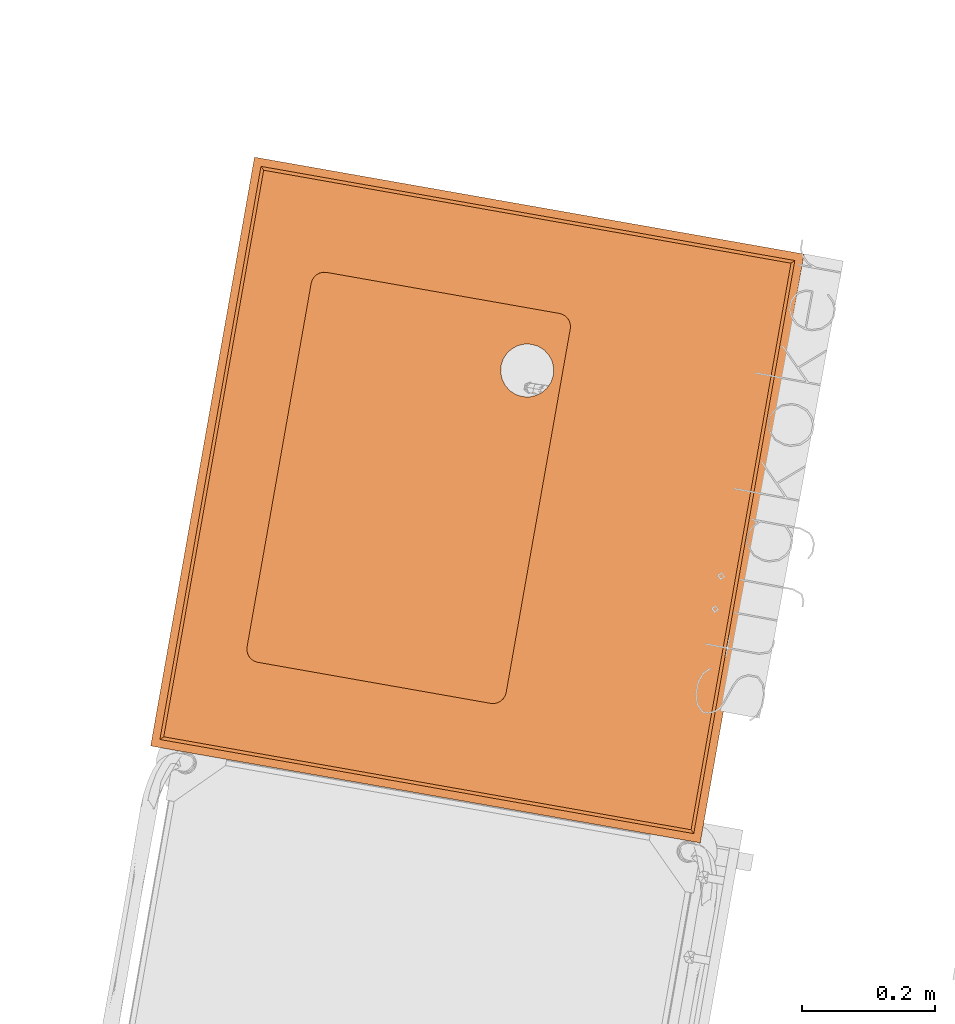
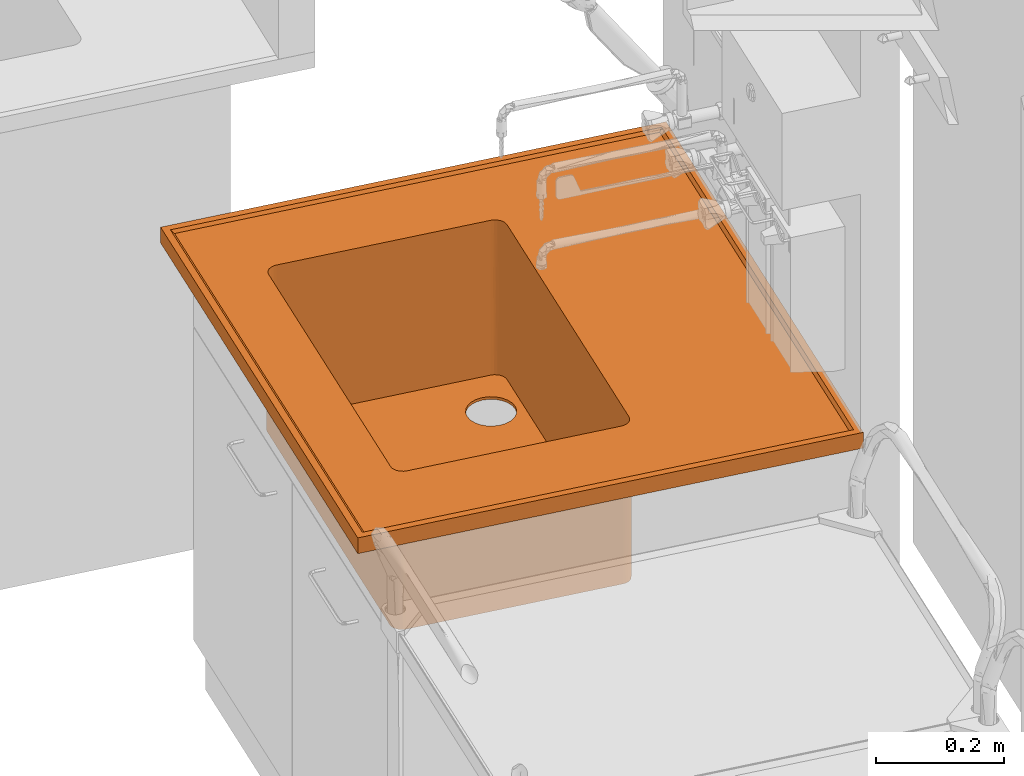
# One storey, part 17 of 32: 1 proxy.
"""IFC2X3 building model written with IfcOpenShell, lengths in metres."""

import ifcopenshell
import ifcopenshell.guid

model = None  # the IFC model being written
_history = None  # IfcOwnerHistory: only IFC2X3 demands one
_inside = {}  # id of a spatial element -> (the spatial element, [elements in it])
_under = {}  # id of a project, library or spatial element -> (it, [spatial elements below it])
_declared = {}  # id of a project -> (the project, [libraries it declares])
_typed = {}  # id of a type object -> (the type object, [elements of that type])
_made_of = {}  # id of a material, layer set ... -> (it, [elements and type objects made of it])


def new_model(schema):
    """Start an empty IFC model of exactly this schema.

    Asked for "IFC4X3", IfcOpenShell would pick the latest addendum, in which some entities
    have other attributes; the version numbers below select the first issue.
    IFC2X3 requires an IfcOwnerHistory on every rooted entity: one is made here for all.
    """
    global model, _history
    if schema == "IFC4X3":
        model = ifcopenshell.file(schema_version=(4, 3, 0, 0))
    else:
        model = ifcopenshell.file(schema=schema)
    _inside.clear()
    _under.clear()
    _declared.clear()
    _typed.clear()
    _made_of.clear()
    _history = None
    if model.schema == "IFC2X3":
        org = make("IfcOrganization", Name="unknown")
        user = make(
            "IfcPersonAndOrganization",
            ThePerson=make("IfcPerson", FamilyName="unknown"),
            TheOrganization=org,
        )
        app = make(
            "IfcApplication",
            ApplicationDeveloper=org,
            Version="unknown",
            ApplicationFullName="unknown",
            ApplicationIdentifier="unknown",
        )
        _history = make(
            "IfcOwnerHistory",
            OwningUser=user,
            OwningApplication=app,
            ChangeAction="ADDED",
            CreationDate=0,
        )
    return model


def make(cls, **values):
    """One entity of the class cls with the attributes given. An attribute that is None is left unset."""
    return model.create_entity(
        cls, **{name: value for name, value in values.items() if value is not None}
    )


def entity(cls, *values):
    """Any entity or typed value of the class cls, its attributes in the order of the schema. None: left unset."""
    e = model.create_entity(cls)
    for i, value in enumerate(values):
        if value is not None:
            e[i] = value
    return e


def rooted(cls, **values):
    """An entity with a GlobalId (a new one), such as an element, a storey or a relation."""
    return make(cls, GlobalId=ifcopenshell.guid.new(), OwnerHistory=_history, **values)


def si_unit(unit_type, name, prefix=None):
    """IfcSIUnit, for example si_unit("LENGTHUNIT", "METRE", prefix="MILLI")."""
    return make("IfcSIUnit", UnitType=unit_type, Prefix=prefix, Name=name)


def converted_unit(unit_type, name, factor, base, dimensions=None, offset=None):
    """IfcConversionBasedUnit, such as the inch: factor (a typed value) times the base unit."""
    return make(
        "IfcConversionBasedUnit"
        if offset is None
        else "IfcConversionBasedUnitWithOffset",
        ConversionOffset=offset,
        Dimensions=None
        if dimensions is None
        else entity("IfcDimensionalExponents", *dimensions),
        UnitType=unit_type,
        Name=name,
        ConversionFactor=make(
            "IfcMeasureWithUnit", ValueComponent=factor, UnitComponent=base
        ),
    )


def derived_unit(unit_type, elements):
    """IfcDerivedUnit: a product of units, each with its exponent."""
    return make(
        "IfcDerivedUnit",
        Elements=[
            make("IfcDerivedUnitElement", Unit=unit, Exponent=power)
            for unit, power in elements
        ],
        UnitType=unit_type,
    )


def assignment(units):
    """IfcUnitAssignment: the units of a project."""
    return None if units is None else make("IfcUnitAssignment", Units=units)


def point(xyz):
    """IfcCartesianPoint."""
    return None if xyz is None else make("IfcCartesianPoint", Coordinates=xyz)


def direction(xyz):
    """IfcDirection."""
    return None if xyz is None else make("IfcDirection", DirectionRatios=xyz)


def frame(location, z_axis=None, x_axis=None):
    """IfcAxis2Placement3D, a coordinate frame: its origin and axes. An axis left out is left unset."""
    return make(
        "IfcAxis2Placement3D",
        Location=point(location),
        Axis=direction(z_axis),
        RefDirection=direction(x_axis),
    )


def origin():
    """The frame at (0, 0, 0) with its axes left unset."""
    return frame((0.0, 0.0, 0.0))


def place(relative_to, where):
    """IfcLocalPlacement: puts the frame where relative to a parent placement (None: the world)."""
    return make(
        "IfcLocalPlacement", PlacementRelTo=relative_to, RelativePlacement=where
    )


def context(
    kind, dimensions, precision=None, world=None, true_north=None, identifier=None
):
    """IfcGeometricRepresentationContext, for example the 3D "Model" context."""
    return make(
        "IfcGeometricRepresentationContext",
        ContextIdentifier=identifier,
        ContextType=kind,
        CoordinateSpaceDimension=dimensions,
        Precision=precision,
        WorldCoordinateSystem=world,
        TrueNorth=true_north,
    )


def subcontext(parent, identifier, kind, view, scale=None):
    """IfcGeometricRepresentationSubContext, for example "Body" below "Model"."""
    return make(
        "IfcGeometricRepresentationSubContext",
        ContextIdentifier=identifier,
        ContextType=kind,
        ParentContext=parent,
        TargetScale=scale,
        TargetView=view,
    )


def project(units=None, contexts=None):
    """IfcProject with its units and contexts."""
    return rooted(
        "IfcProject",
        Name="project",
        RepresentationContexts=contexts,
        UnitsInContext=assignment(units),
    )


def spatial(cls, under=None, at=None, **own):
    """A site, building, storey or space (cls), placed at a placement, below another one or the project."""
    s = rooted(cls, ObjectPlacement=at, **own)
    if under is not None:
        _under.setdefault(under.id(), (under, []))[1].append(s)
    return s


def faces_of(points, faces, orient=None, outer=None):
    """IfcFace entities. A face is a list of loops; a loop is a list of indices into points, from 0.

    orient and outer hold one flag for each loop. By default every Orientation is true, the
    first loop of a face is its IfcFaceOuterBound and the others are IfcFaceBound.
    """
    made = []
    for i, loops in enumerate(faces):
        bounds = []
        for j, loop in enumerate(loops):
            is_outer = j == 0 if outer is None else outer[i][j]
            bounds.append(
                make(
                    "IfcFaceOuterBound" if is_outer else "IfcFaceBound",
                    Bound=make("IfcPolyLoop", Polygon=[points[k] for k in loop]),
                    Orientation=True if orient is None else orient[i][j],
                )
            )
        made.append(make("IfcFace", Bounds=bounds))
    return made


def faceted_brep(points, faces, orient=None, outer=None, voids=None):
    """IfcFacetedBrep: a solid bounded by flat faces; with voids (closed shells), ...WithVoids."""
    shared = [point(p) for p in points]
    hull = make("IfcClosedShell", CfsFaces=faces_of(shared, faces, orient, outer))
    if voids is None:
        return make("IfcFacetedBrep", Outer=hull)
    return make(
        "IfcFacetedBrepWithVoids",
        Outer=hull,
        Voids=[
            make(cls, CfsFaces=faces_of(shared, fs, o, b)) for cls, fs, o, b in voids
        ],
    )


def shape(context_of_items, identifier, shape_type, items):
    """IfcShapeRepresentation: the items that make up one representation, for example the "Body"."""
    return make(
        "IfcShapeRepresentation",
        ContextOfItems=context_of_items,
        RepresentationIdentifier=identifier,
        RepresentationType=shape_type,
        Items=items,
    )


def source(mapping_origin, context_of_items, identifier, shape_type, items):
    """IfcRepresentationMap: a shape defined once, which mapped items show again and again."""
    return make(
        "IfcRepresentationMap",
        MappingOrigin=mapping_origin,
        MappedRepresentation=shape(context_of_items, identifier, shape_type, items),
    )


def transform(
    local_origin,
    x_axis=None,
    y_axis=None,
    z_axis=None,
    scale=None,
    scale2=None,
    scale3=None,
    uniform=True,
):
    """IfcCartesianTransformationOperator3D, or its non-uniform kind. x_axis, y_axis, z_axis: its Axis1, 2, 3."""
    if uniform:
        return make(
            "IfcCartesianTransformationOperator3D",
            Axis1=direction(x_axis),
            Axis2=direction(y_axis),
            LocalOrigin=point(local_origin),
            Scale=scale,
            Axis3=direction(z_axis),
        )
    return make(
        "IfcCartesianTransformationOperator3DnonUniform",
        Axis1=direction(x_axis),
        Axis2=direction(y_axis),
        LocalOrigin=point(local_origin),
        Scale=scale,
        Axis3=direction(z_axis),
        Scale2=scale2,
        Scale3=scale3,
    )


def mapped(mapping_source, mapping_target):
    """IfcMappedItem: shows the shape of a source again, moved by a transform."""
    return make(
        "IfcMappedItem", MappingSource=mapping_source, MappingTarget=mapping_target
    )


def material(Name=None, Category=None):
    """IfcMaterial."""
    return make("IfcMaterial", Name=Name, Category=Category)


def made_of(thing, what):
    """Note that an element or type object is made of a material, layer set ...; save() writes the relation."""
    if what is not None:
        _made_of.setdefault(what.id(), (what, []))[1].append(thing)
    return thing


def type_object(cls, material=None, **own):
    """A type object (cls), such as IfcWallType, which elements share."""
    return made_of(rooted(cls, **own), material)


def type_shapes(of_type, sources):
    """Give a type object the sources (RepresentationMaps) that its elements show as mapped items."""
    of_type.RepresentationMaps = sources


def element(
    cls,
    number,
    at=None,
    inside=None,
    cuts=None,
    type_object=None,
    material=None,
    context=None,
    identifier="Body",
    shape_type=None,
    held_by="IfcProductDefinitionShape",
    body=None,
    shapes=None,
    **own,
):
    """One element of the class cls, such as IfcWall. Its Tag is "e" and its number.

    at: its placement. inside: the storey or other place that contains it. cuts: it is an
    opening in that element (IfcRelVoidsElement). A single representation is given by context,
    identifier, shape_type and body (its items); several are given by shapes. held_by: the class
    of the entity that holds the representations. save() writes the other relations.
    """
    e = rooted(cls, Tag="e%d" % number, ObjectPlacement=at, **own)
    if body is not None:
        shapes = [shape(context, identifier, shape_type, body)]
    if shapes is not None:
        e.Representation = make(held_by, Representations=shapes)
    if inside is not None:
        _inside.setdefault(inside.id(), (inside, []))[1].append(e)
    if cuts is not None:
        rooted(
            "IfcRelVoidsElement", RelatingBuildingElement=cuts, RelatedOpeningElement=e
        )
    if type_object is not None:
        _typed.setdefault(type_object.id(), (type_object, []))[1].append(e)
    return made_of(e, material)


def aggregate(whole, parts):
    """IfcRelAggregates: a whole, such as a stair, and the parts it consists of."""
    return rooted("IfcRelAggregates", RelatingObject=whole, RelatedObjects=parts)


def save(model, path):
    """Write the relations noted so far, then the file.

    IfcRelAggregates (storeys below a building ...), IfcRelContainedInSpatialStructure (elements
    in a storey), IfcRelDefinesByType, IfcRelAssociatesMaterial and IfcRelDeclares: one each for
    every whole, place, type object, material and project.
    """
    for whole, parts in _under.values():
        aggregate(whole, parts)
    for where, things in _inside.values():
        rooted(
            "IfcRelContainedInSpatialStructure",
            RelatedElements=things,
            RelatingStructure=where,
        )
    for kind, things in _typed.values():
        rooted("IfcRelDefinesByType", RelatedObjects=things, RelatingType=kind)
    for what, things in _made_of.values():
        rooted("IfcRelAssociatesMaterial", RelatedObjects=things, RelatingMaterial=what)
    for by, libraries in _declared.values():
        rooted("IfcRelDeclares", RelatingContext=by, RelatedDefinitions=libraries)
    model.write(path)


model = new_model("IFC2X3")

# Units and contexts
model_context = context("Model", 3, precision=1e-05, world=origin(), true_north=direction((6.12303176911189e-17, 1.0)))
body_context = subcontext(model_context, "Body", "Model", "MODEL_VIEW")
ifc_project = project(units=[si_unit("LENGTHUNIT", "METRE"), si_unit("AREAUNIT", "SQUARE_METRE"), si_unit("VOLUMEUNIT", "CUBIC_METRE"), converted_unit("PLANEANGLEUNIT", "DEGREE", entity("IfcRatioMeasure", 0.0174532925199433), si_unit("PLANEANGLEUNIT", "RADIAN"), dimensions=[0, 0, 0, 0, 0, 0, 0]), si_unit("MASSUNIT", "GRAM", prefix="KILO"), derived_unit("MASSDENSITYUNIT", [(si_unit("MASSUNIT", "GRAM", prefix="KILO"), 1), (si_unit("LENGTHUNIT", "METRE"), -3)]), derived_unit("MOMENTOFINERTIAUNIT", [(si_unit("LENGTHUNIT", "METRE"), 4)]), si_unit("TIMEUNIT", "SECOND"), si_unit("FREQUENCYUNIT", "HERTZ"), si_unit("THERMODYNAMICTEMPERATUREUNIT", "DEGREE_CELSIUS"), derived_unit("THERMALTRANSMITTANCEUNIT", [(si_unit("MASSUNIT", "GRAM", prefix="KILO"), 1), (si_unit("THERMODYNAMICTEMPERATUREUNIT", "KELVIN"), -1), (si_unit("TIMEUNIT", "SECOND"), -3)]), derived_unit("VOLUMETRICFLOWRATEUNIT", [(si_unit("LENGTHUNIT", "METRE"), 3), (si_unit("TIMEUNIT", "SECOND"), -1)]), si_unit("ELECTRICCURRENTUNIT", "AMPERE"), si_unit("ELECTRICVOLTAGEUNIT", "VOLT"), si_unit("POWERUNIT", "WATT"), si_unit("FORCEUNIT", "NEWTON", prefix="KILO"), si_unit("ILLUMINANCEUNIT", "LUX"), si_unit("LUMINOUSFLUXUNIT", "LUMEN"), si_unit("LUMINOUSINTENSITYUNIT", "CANDELA"), derived_unit("USERDEFINED", [(si_unit("MASSUNIT", "GRAM", prefix="KILO"), -1), (si_unit("LENGTHUNIT", "METRE"), -2), (si_unit("TIMEUNIT", "SECOND"), 3), (si_unit("LUMINOUSFLUXUNIT", "LUMEN"), 1)]), derived_unit("LINEARVELOCITYUNIT", [(si_unit("LENGTHUNIT", "METRE"), 1), (si_unit("TIMEUNIT", "SECOND"), -1)]), si_unit("PRESSUREUNIT", "PASCAL"), derived_unit("USERDEFINED", [(si_unit("LENGTHUNIT", "METRE"), -2), (si_unit("MASSUNIT", "GRAM", prefix="KILO"), 1), (si_unit("TIMEUNIT", "SECOND"), -2)]), derived_unit("LINEARFORCEUNIT", [(si_unit("MASSUNIT", "GRAM", prefix="KILO"), 1), (si_unit("LENGTHUNIT", "METRE"), 1), (si_unit("TIMEUNIT", "SECOND"), -2), (si_unit("LENGTHUNIT", "METRE"), -1)]), derived_unit("PLANARFORCEUNIT", [(si_unit("MASSUNIT", "GRAM", prefix="KILO"), 1), (si_unit("LENGTHUNIT", "METRE"), 1), (si_unit("TIMEUNIT", "SECOND"), -2), (si_unit("LENGTHUNIT", "METRE"), -2)])], contexts=[model_context])

# Site, building, storey
site_placement = place(None, origin())
site = spatial("IfcSite", under=ifc_project, at=site_placement, Name="Default", CompositionType="ELEMENT")
building_placement = place(site_placement, origin())
building = spatial("IfcBuilding", under=site, at=building_placement, CompositionType="ELEMENT")
storey_placement = place(building_placement, origin())
storey = spatial("IfcBuildingStorey", under=building, at=storey_placement, Name="00 EG", CompositionType="ELEMENT", Elevation=0.0)

# Proxy
ifc_material = material(Name="Steinzeug")
building_element_proxy_type = type_object("IfcBuildingElementProxyType", Name="dh_Tischplatte Steinzeug Becken:dh_Tischplatte Steinzeug Becken", PredefinedType="NOTDEFINED", material=ifc_material)
shared_shape = source(origin(), body_context, "Body", "Brep", [
    faceted_brep([(0.150681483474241, 0.50017638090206, 0.0), (0.155857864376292, 0.50914213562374, 0.0), (0.160000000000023, 0.512320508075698, 0.0), (0.152679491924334, 0.505000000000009, 0.0), (0.150000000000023, 0.495000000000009, 0.0), (0.164823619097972, 0.514318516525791, 0.0), (0.170000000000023, 0.515000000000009, 0.0), (0.206362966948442, 0.470352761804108, 0.0), (0.210358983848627, 0.480000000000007, 0.0), (0.216715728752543, 0.488284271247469, 0.0), (0.225000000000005, 0.494641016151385, 0.0), (0.234647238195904, 0.49863703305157, 0.0), (0.245000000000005, 0.500000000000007, 0.0), (0.255352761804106, 0.49863703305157, 0.0), (0.730000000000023, 0.515000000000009, 0.0), (0.265000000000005, 0.494641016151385, 0.0), (0.273284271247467, 0.488284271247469, 0.0), (0.279641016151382, 0.480000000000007, 0.0), (0.283637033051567, 0.470352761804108, 0.0), (0.285000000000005, 0.460000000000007, 0.0), (0.283637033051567, 0.449647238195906, 0.0), (0.279641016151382, 0.440000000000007, 0.0), (0.730000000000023, 0.11500000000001, 0.0), (0.750000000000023, 0.13500000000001, 0.0), (0.750000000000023, 0.495000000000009, 0.0), (0.735176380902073, 0.514318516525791, 0.0), (0.740000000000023, 0.512320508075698, 0.0), (0.749318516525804, 0.50017638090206, 0.0), (0.744142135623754, 0.50914213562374, 0.0), (0.747320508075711, 0.505000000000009, 0.0), (0.735176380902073, 0.115681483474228, 0.0), (0.740000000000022, 0.117679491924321, 0.0), (0.749318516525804, 0.129823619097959, 0.0), (0.744142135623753, 0.120857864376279, 0.0), (0.747320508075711, 0.125000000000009, 0.0), (0.273284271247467, 0.431715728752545, 0.0), (0.170000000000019, 0.115000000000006, 0.0), (0.265000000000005, 0.42535898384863, 0.0), (0.255352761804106, 0.421362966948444, 0.0), (0.150000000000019, 0.135000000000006, 0.0), (0.164823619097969, 0.115681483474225, 0.0), (0.160000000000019, 0.117679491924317, 0.0), (0.150681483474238, 0.129823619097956, 0.0), (0.155857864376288, 0.120857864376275, 0.0), (0.152679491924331, 0.125000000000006, 0.0), (0.210358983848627, 0.440000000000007, 0.0), (0.216715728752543, 0.431715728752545, 0.0), (0.225000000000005, 0.42535898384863, 0.0), (0.234647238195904, 0.421362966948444, 0.0), (0.245000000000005, 0.420000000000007, 0.0), (0.205000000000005, 0.460000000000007, 0.0), (0.206362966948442, 0.449647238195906, 0.0), (0.7453205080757, 0.503000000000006, 0.3), (0.747320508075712, 0.505000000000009, 0.3), (0.742142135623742, 0.507142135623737, 0.3), (0.749318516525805, 0.50017638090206, 0.3), (0.747318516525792, 0.498176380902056, 0.3), (0.750000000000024, 0.495000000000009, 0.3), (0.748000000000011, 0.493000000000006, 0.3), (0.748000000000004, 0.137000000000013, 0.3), (0.750000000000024, 0.13500000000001, 0.3), (0.747318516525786, 0.131823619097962, 0.3), (0.749318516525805, 0.129823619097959, 0.3), (0.745320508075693, 0.127000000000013, 0.3), (0.747320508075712, 0.125000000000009, 0.3), (0.742142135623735, 0.122857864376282, 0.3), (0.744142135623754, 0.120857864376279, 0.3), (0.740000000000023, 0.117679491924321, 0.3), (0.738000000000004, 0.119679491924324, 0.3), (0.735176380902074, 0.115681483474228, 0.3), (0.733176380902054, 0.117681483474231, 0.3), (0.730000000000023, 0.11500000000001, 0.3), (0.728000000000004, 0.117000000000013, 0.3), (0.172000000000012, 0.117000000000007, 0.300000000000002), (0.17000000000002, 0.115000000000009, 0.300000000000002), (0.166823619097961, 0.117681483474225, 0.300000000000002), (0.16482361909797, 0.115681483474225, 0.300000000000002), (0.162000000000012, 0.119679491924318, 0.300000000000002), (0.16000000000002, 0.117679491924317, 0.300000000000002), (0.157857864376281, 0.122857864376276, 0.300000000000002), (0.155857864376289, 0.120857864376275, 0.300000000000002), (0.152679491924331, 0.125000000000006, 0.300000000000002), (0.154679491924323, 0.127000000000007, 0.300000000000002), (0.150681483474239, 0.129823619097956, 0.300000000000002), (0.15268148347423, 0.131823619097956, 0.300000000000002), (0.15000000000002, 0.135000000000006, 0.300000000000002), (0.152000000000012, 0.137000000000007, 0.300000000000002), (0.150000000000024, 0.495000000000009, 0.300000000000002), (0.152000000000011, 0.493000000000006, 0.300000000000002), (0.15268148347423, 0.498176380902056, 0.300000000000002), (0.150681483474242, 0.50017638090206, 0.300000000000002), (0.154679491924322, 0.503000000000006, 0.300000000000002), (0.152679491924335, 0.505000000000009, 0.300000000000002), (0.15785786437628, 0.507142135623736, 0.300000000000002), (0.155857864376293, 0.50914213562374, 0.300000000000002), (0.160000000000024, 0.512320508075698, 0.300000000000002), (0.162000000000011, 0.510320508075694, 0.300000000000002), (0.164823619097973, 0.514318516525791, 0.300000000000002), (0.16682361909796, 0.512318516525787, 0.300000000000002), (0.170000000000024, 0.515000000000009, 0.300000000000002), (0.172000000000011, 0.513000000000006, 0.300000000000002), (0.730000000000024, 0.515000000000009, 0.3), (0.728000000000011, 0.513000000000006, 0.3), (0.733176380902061, 0.512318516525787, 0.3), (0.735176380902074, 0.514318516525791, 0.3), (0.738000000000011, 0.510320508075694, 0.3), (0.740000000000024, 0.512320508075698, 0.3), (0.744142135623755, 0.50914213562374, 0.3), (0.730000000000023, 0.515000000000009, 0.15000042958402), (0.170000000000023, 0.515000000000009, 0.150000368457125), (0.150000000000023, 0.49500000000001, 0.150000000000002), (0.15000000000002, 0.135000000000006, 0.150000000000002), (0.17000000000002, 0.115000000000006, 0.150000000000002), (0.730000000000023, 0.11500000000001, 0.15), (0.750000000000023, 0.135000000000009, 0.15), (0.750000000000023, 0.495000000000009, 0.15), (0.16200000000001, 0.510320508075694, 0.00500000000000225), (0.157857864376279, 0.507142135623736, 0.00500000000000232), (0.152681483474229, 0.498176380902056, 0.00500000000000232), (0.15200000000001, 0.493000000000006, 0.00500000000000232), (0.16682361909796, 0.512318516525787, 0.00500000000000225), (0.154679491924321, 0.503000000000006, 0.00500000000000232), (0.17200000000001, 0.513000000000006, 0.00500000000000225), (0.206362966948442, 0.470352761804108, 0.00500000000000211), (0.205000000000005, 0.460000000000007, 0.00500000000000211), (0.206362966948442, 0.449647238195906, 0.00500000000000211), (0.210358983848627, 0.440000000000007, 0.00500000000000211), (0.152000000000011, 0.137000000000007, 0.00500000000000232), (0.216715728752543, 0.431715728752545, 0.00500000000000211), (0.225000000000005, 0.42535898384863, 0.00500000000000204), (0.234647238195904, 0.421362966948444, 0.00500000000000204), (0.245000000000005, 0.420000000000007, 0.00500000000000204), (0.255352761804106, 0.421362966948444, 0.00500000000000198), (0.172000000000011, 0.117000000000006, 0.00500000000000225), (0.16682361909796, 0.117681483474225, 0.00500000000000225), (0.162000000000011, 0.119679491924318, 0.00500000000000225), (0.152681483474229, 0.131823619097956, 0.00500000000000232), (0.15785786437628, 0.122857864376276, 0.00500000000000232), (0.154679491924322, 0.127000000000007, 0.00500000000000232), (0.265000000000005, 0.42535898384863, 0.00500000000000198), (0.273284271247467, 0.431715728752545, 0.00500000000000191), (0.728000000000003, 0.117000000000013, 0.00500000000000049), (0.279641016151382, 0.440000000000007, 0.00500000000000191), (0.72800000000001, 0.513000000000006, 0.00500000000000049), (0.74800000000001, 0.137000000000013, 0.00500000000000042), (0.733176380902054, 0.117681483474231, 0.00500000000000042), (0.738000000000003, 0.119679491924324, 0.00500000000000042), (0.747318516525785, 0.131823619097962, 0.00500000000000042), (0.742142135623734, 0.122857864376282, 0.00500000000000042), (0.745320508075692, 0.127000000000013, 0.00500000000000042), (0.74800000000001, 0.493000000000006, 0.00500000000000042), (0.733176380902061, 0.512318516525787, 0.00500000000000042), (0.73800000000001, 0.510320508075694, 0.00500000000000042), (0.747318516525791, 0.498176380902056, 0.00500000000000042), (0.742142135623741, 0.507142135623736, 0.00500000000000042), (0.745320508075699, 0.503000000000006, 0.00500000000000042), (0.255352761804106, 0.49863703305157, 0.00500000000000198), (0.265000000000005, 0.494641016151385, 0.00500000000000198), (0.273284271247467, 0.488284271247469, 0.00500000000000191), (0.279641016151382, 0.480000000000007, 0.00500000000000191), (0.283637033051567, 0.470352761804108, 0.00500000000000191), (0.285000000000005, 0.460000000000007, 0.00500000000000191), (0.283637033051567, 0.449647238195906, 0.00500000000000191), (0.210358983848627, 0.480000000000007, 0.00500000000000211), (0.216715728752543, 0.488284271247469, 0.00500000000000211), (0.225000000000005, 0.494641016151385, 0.00500000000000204), (0.234647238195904, 0.49863703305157, 0.00500000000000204), (0.245000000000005, 0.500000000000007, 0.00500000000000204), (0.172000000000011, 0.513000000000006, 0.152499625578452), (0.728000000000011, 0.513000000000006, 0.1525), (0.152000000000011, 0.137000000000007, 0.152500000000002), (0.15200000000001, 0.493000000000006, 0.152500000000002), (0.728000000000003, 0.117000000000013, 0.1525), (0.172000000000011, 0.117000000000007, 0.152500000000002), (0.74800000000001, 0.493000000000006, 0.1525), (0.748000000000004, 0.137000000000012, 0.1525), (0.164346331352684, 0.511477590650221, 0.152499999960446), (0.153522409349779, 0.500653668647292, 0.152499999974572), (0.152384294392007, 0.496901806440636, 0.18766218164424), (0.168098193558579, 0.51261570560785, 0.117337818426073), (0.159824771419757, 0.50886706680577, 0.136631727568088), (0.156132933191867, 0.505175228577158, 0.168368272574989), (0.15352240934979, 0.129346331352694, 0.15249999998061), (0.164346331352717, 0.118522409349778, 0.152499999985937), (0.168098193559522, 0.117384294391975, 0.187662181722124), (0.152384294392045, 0.133098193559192, 0.117337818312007), (0.156132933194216, 0.124824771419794, 0.136631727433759), (0.159824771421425, 0.121132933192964, 0.168368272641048), (0.735653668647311, 0.11852240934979, 0.152499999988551), (0.746477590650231, 0.129346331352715, 0.1524999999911), (0.747615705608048, 0.133098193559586, 0.187662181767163), (0.731901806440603, 0.117384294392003, 0.117337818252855), (0.740175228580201, 0.121132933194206, 0.136631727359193), (0.743867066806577, 0.124824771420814, 0.168368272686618), (0.746477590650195, 0.500653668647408, 0.152499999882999), (0.735653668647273, 0.511477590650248, 0.152499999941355), (0.731901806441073, 0.512615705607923, 0.187662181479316), (0.747615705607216, 0.496901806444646, 0.117337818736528), (0.743867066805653, 0.505175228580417, 0.136631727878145), (0.740175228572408, 0.508867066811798, 0.168368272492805), (0.162346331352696, 0.513477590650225, 0.149999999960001), (0.150384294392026, 0.498901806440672, 0.187055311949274), (0.151522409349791, 0.502653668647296, 0.14999999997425), (0.16609819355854, 0.514615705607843, 0.112944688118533), (0.157824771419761, 0.510867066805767, 0.13191703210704), (0.154132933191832, 0.5071752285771, 0.16808296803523), (0.151522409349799, 0.127346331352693, 0.149999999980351), (0.166098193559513, 0.115384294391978, 0.187055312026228), (0.162346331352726, 0.116522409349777, 0.149999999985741), (0.150384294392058, 0.131098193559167, 0.112944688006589), (0.154132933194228, 0.122824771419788, 0.13191703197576), (0.157824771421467, 0.119132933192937, 0.16808296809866), (0.737653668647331, 0.116522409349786, 0.149999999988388), (0.749615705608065, 0.131098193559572, 0.187055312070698), (0.748477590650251, 0.127346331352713, 0.14999999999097), (0.733901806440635, 0.115384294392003, 0.112944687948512), (0.742175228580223, 0.119132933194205, 0.131917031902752), (0.745867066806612, 0.122824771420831, 0.168082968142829), (0.748477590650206, 0.502653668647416, 0.149999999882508), (0.733901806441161, 0.514615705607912, 0.187055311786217), (0.737653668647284, 0.513477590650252, 0.149999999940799), (0.749615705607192, 0.498901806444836, 0.112944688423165), (0.745867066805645, 0.507175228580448, 0.131917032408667), (0.742175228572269, 0.510867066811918, 0.168082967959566)], [[[0, 1, 2]], [[0, 3, 1]], [[0, 2, 4]], [[4, 2, 5]], [[5, 6, 4]], [[6, 7, 4]], [[8, 7, 6]], [[8, 6, 9]], [[10, 9, 6]], [[6, 11, 10]], [[6, 12, 11]], [[12, 6, 13]], [[13, 6, 14]], [[15, 13, 14]], [[16, 15, 14]], [[16, 14, 17]], [[18, 17, 14]], [[19, 18, 14]], [[19, 14, 20]], [[20, 14, 21]], [[22, 21, 14]], [[23, 22, 14]], [[23, 14, 24]], [[24, 14, 25]], [[24, 25, 26]], [[24, 26, 27]], [[27, 26, 28]], [[28, 29, 27]], [[22, 23, 30]], [[31, 30, 23]], [[32, 31, 23]], [[33, 31, 32]], [[33, 32, 34]], [[35, 21, 22]], [[22, 36, 35]], [[35, 36, 37]], [[37, 36, 38]], [[39, 38, 36]], [[39, 36, 40]], [[41, 39, 40]], [[41, 42, 39]], [[42, 41, 43]], [[42, 43, 44]], [[39, 4, 45]], [[46, 39, 45]], [[39, 46, 47]], [[47, 48, 39]], [[49, 39, 48]], [[38, 39, 49]], [[4, 7, 50]], [[4, 50, 51]], [[4, 51, 45]], [[52, 53, 54]], [[53, 52, 55]], [[55, 52, 56]], [[57, 55, 56]], [[56, 58, 57]], [[57, 58, 59]], [[59, 60, 57]], [[60, 59, 61]], [[60, 61, 62]], [[62, 61, 63]], [[64, 62, 63]], [[65, 64, 63]], [[64, 65, 66]], [[65, 67, 66]], [[65, 68, 67]], [[67, 68, 69]], [[68, 70, 69]], [[71, 69, 70]], [[72, 71, 70]], [[71, 72, 73]], [[73, 74, 71]], [[73, 75, 74]], [[74, 75, 76]], [[75, 77, 76]], [[77, 78, 76]], [[77, 79, 78]], [[79, 80, 78]], [[79, 81, 80]], [[81, 79, 82]], [[83, 81, 82]], [[82, 84, 83]], [[84, 85, 83]], [[84, 86, 85]], [[85, 86, 87]], [[88, 87, 86]], [[88, 89, 87]], [[90, 87, 89]], [[89, 91, 90]], [[91, 92, 90]], [[92, 91, 93]], [[92, 93, 94]], [[93, 95, 94]], [[95, 93, 96]], [[97, 95, 96]], [[98, 97, 96]], [[98, 99, 97]], [[98, 100, 99]], [[99, 100, 101]], [[102, 101, 100]], [[103, 101, 102]], [[103, 104, 101]], [[104, 103, 105]], [[54, 106, 105]], [[105, 106, 104]], [[54, 53, 107]], [[106, 54, 107]], [[99, 101, 108, 14, 6, 109]], [[87, 110, 4, 39, 111, 85]], [[74, 112, 36, 22, 113, 71]], [[60, 114, 23, 24, 115, 57]], [[116, 117, 118]], [[119, 116, 118]], [[120, 116, 119]], [[117, 121, 118]], [[119, 122, 120]], [[119, 123, 122]], [[124, 123, 119]], [[125, 124, 119]], [[126, 125, 119]], [[126, 119, 127]], [[126, 127, 128]], [[129, 128, 127]], [[127, 130, 129]], [[130, 127, 131]], [[131, 127, 132]], [[133, 132, 127]], [[134, 133, 127]], [[134, 127, 135]], [[127, 136, 135]], [[137, 135, 136]], [[138, 137, 136]], [[132, 133, 139]], [[139, 133, 140]], [[140, 133, 141]], [[141, 142, 140]], [[143, 142, 141]], [[143, 141, 144]], [[145, 144, 141]], [[144, 145, 146]], [[144, 146, 147]], [[147, 146, 148]], [[149, 147, 148]], [[150, 143, 144]], [[151, 143, 150]], [[152, 151, 150]], [[153, 152, 150]], [[154, 152, 153]], [[153, 155, 154]], [[143, 122, 156]], [[143, 156, 157]], [[143, 157, 158]], [[159, 143, 158]], [[143, 159, 160]], [[143, 160, 161]], [[162, 143, 161]], [[142, 143, 162]], [[122, 123, 163]], [[164, 122, 163]], [[122, 164, 165]], [[165, 166, 122]], [[166, 167, 122]], [[156, 122, 167]], [[100, 168, 122, 143, 169, 102]], [[86, 170, 127, 119, 171, 88]], [[72, 172, 141, 133, 173, 73]], [[58, 174, 150, 144, 175, 59]], [[19, 161, 160, 18]], [[18, 160, 159, 17]], [[15, 16, 158, 157]], [[158, 16, 17, 159]], [[13, 15, 157, 156]], [[13, 156, 167, 12]], [[12, 167, 166, 11]], [[11, 166, 165, 10]], [[8, 9, 164, 163]], [[164, 9, 10, 165]], [[7, 8, 163, 123]], [[7, 123, 124, 50]], [[50, 124, 125, 51]], [[51, 125, 126, 45]], [[47, 46, 128, 129]], [[128, 46, 45, 126]], [[48, 47, 129, 130]], [[48, 130, 131, 49]], [[49, 131, 132, 38]], [[38, 132, 139, 37]], [[21, 35, 140, 142]], [[140, 35, 37, 139]], [[20, 21, 142, 162]], [[20, 162, 161, 19]], [[116, 120, 176]], [[177, 178, 118]], [[168, 179, 122]], [[116, 176, 180]], [[180, 117, 116]], [[176, 120, 179]], [[89, 88, 178]], [[100, 98, 168]], [[176, 98, 96]], [[122, 179, 120]], [[180, 176, 96]], [[171, 178, 88]], [[118, 121, 177]], [[117, 180, 181]], [[181, 180, 93]], [[171, 119, 118]], [[181, 121, 117]], [[91, 177, 181]], [[98, 179, 168]], [[91, 89, 177]], [[89, 178, 177]], [[93, 180, 96]], [[118, 178, 171]], [[181, 177, 121]], [[176, 179, 98]], [[93, 91, 181]], [[138, 136, 182]], [[183, 184, 134]], [[170, 185, 127]], [[138, 182, 186]], [[186, 137, 138]], [[182, 136, 185]], [[75, 73, 184]], [[86, 84, 170]], [[182, 84, 82]], [[127, 185, 136]], [[186, 182, 82]], [[173, 184, 73]], [[134, 135, 183]], [[137, 186, 187]], [[187, 186, 79]], [[173, 133, 134]], [[187, 135, 137]], [[77, 183, 187]], [[84, 185, 170]], [[77, 75, 183]], [[75, 184, 183]], [[79, 186, 82]], [[134, 184, 173]], [[187, 183, 135]], [[182, 185, 84]], [[79, 77, 187]], [[146, 145, 188]], [[189, 190, 147]], [[172, 191, 141]], [[146, 188, 192]], [[192, 148, 146]], [[188, 145, 191]], [[61, 59, 190]], [[72, 70, 172]], [[188, 70, 68]], [[141, 191, 145]], [[192, 188, 68]], [[175, 190, 59]], [[147, 149, 189]], [[148, 192, 193]], [[193, 192, 65]], [[175, 144, 147]], [[193, 149, 148]], [[63, 189, 193]], [[70, 191, 172]], [[63, 61, 189]], [[61, 190, 189]], [[65, 192, 68]], [[147, 190, 175]], [[193, 189, 149]], [[188, 191, 70]], [[65, 63, 193]], [[155, 153, 194]], [[195, 196, 151]], [[174, 197, 150]], [[155, 194, 198]], [[198, 154, 155]], [[194, 153, 197]], [[103, 102, 196]], [[58, 56, 174]], [[194, 56, 52]], [[150, 197, 153]], [[198, 194, 52]], [[169, 196, 102]], [[151, 152, 195]], [[154, 198, 199]], [[199, 198, 54]], [[169, 143, 151]], [[199, 152, 154]], [[105, 195, 199]], [[56, 197, 174]], [[105, 103, 195]], [[103, 196, 195]], [[54, 198, 52]], [[151, 196, 169]], [[199, 195, 152]], [[194, 197, 56]], [[54, 105, 199]], [[200, 5, 2]], [[0, 201, 202]], [[6, 203, 109]], [[204, 200, 2]], [[2, 1, 204]], [[203, 5, 200]], [[201, 87, 90]], [[109, 97, 99]], [[95, 97, 200]], [[5, 203, 6]], [[95, 200, 204]], [[87, 201, 110]], [[202, 3, 0]], [[205, 204, 1]], [[94, 204, 205]], [[0, 4, 110]], [[1, 3, 205]], [[205, 202, 92]], [[109, 203, 97]], [[202, 90, 92]], [[202, 201, 90]], [[95, 204, 94]], [[110, 201, 0]], [[3, 202, 205]], [[97, 203, 200]], [[205, 92, 94]], [[206, 42, 44]], [[40, 207, 208]], [[39, 209, 111]], [[210, 206, 44]], [[44, 43, 210]], [[209, 42, 206]], [[207, 74, 76]], [[111, 83, 85]], [[81, 83, 206]], [[42, 209, 39]], [[81, 206, 210]], [[74, 207, 112]], [[208, 41, 40]], [[211, 210, 43]], [[80, 210, 211]], [[40, 36, 112]], [[43, 41, 211]], [[211, 208, 78]], [[111, 209, 83]], [[208, 76, 78]], [[208, 207, 76]], [[81, 210, 80]], [[112, 207, 40]], [[41, 208, 211]], [[83, 209, 206]], [[211, 78, 80]], [[212, 30, 31]], [[32, 213, 214]], [[22, 215, 113]], [[216, 212, 31]], [[31, 33, 216]], [[215, 30, 212]], [[213, 60, 62]], [[113, 69, 71]], [[67, 69, 212]], [[30, 215, 22]], [[67, 212, 216]], [[60, 213, 114]], [[214, 34, 32]], [[217, 216, 33]], [[66, 216, 217]], [[32, 23, 114]], [[33, 34, 217]], [[217, 214, 64]], [[113, 215, 69]], [[214, 62, 64]], [[214, 213, 62]], [[67, 216, 66]], [[114, 213, 32]], [[34, 214, 217]], [[69, 215, 212]], [[217, 64, 66]], [[218, 27, 29]], [[25, 219, 220]], [[24, 221, 115]], [[222, 218, 29]], [[29, 28, 222]], [[221, 27, 218]], [[219, 101, 104]], [[115, 55, 57]], [[53, 55, 218]], [[27, 221, 24]], [[53, 218, 222]], [[101, 219, 108]], [[220, 26, 25]], [[223, 222, 28]], [[107, 222, 223]], [[25, 14, 108]], [[28, 26, 223]], [[223, 220, 106]], [[115, 221, 55]], [[220, 104, 106]], [[220, 219, 104]], [[53, 222, 107]], [[108, 219, 25]], [[26, 220, 223]], [[55, 221, 218]], [[223, 106, 107]]]),
    faceted_brep([(0.883000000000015, 0.823000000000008, 0.3), (0.745320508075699, 0.503000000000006, 0.3), (0.747318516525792, 0.498176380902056, 0.3), (0.742142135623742, 0.507142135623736, 0.300000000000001), (0.748000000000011, 0.493000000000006, 0.3), (0.883000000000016, 0.017000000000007, 0.3), (0.738000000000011, 0.510320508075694, 0.300000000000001), (0.733176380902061, 0.512318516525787, 0.300000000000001), (0.728000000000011, 0.513000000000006, 0.300000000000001), (0.172000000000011, 0.513000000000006, 0.300000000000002), (0.0170000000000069, 0.823000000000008, 0.300000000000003), (0.16682361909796, 0.512318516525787, 0.300000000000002), (0.162000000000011, 0.510320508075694, 0.300000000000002), (0.15785786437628, 0.507142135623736, 0.300000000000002), (0.154679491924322, 0.503000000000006, 0.300000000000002), (0.15268148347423, 0.498176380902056, 0.300000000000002), (0.152000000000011, 0.493000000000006, 0.300000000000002), (0.017000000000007, 0.017000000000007, 0.300000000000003), (0.152000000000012, 0.137000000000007, 0.300000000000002), (0.15268148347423, 0.131823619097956, 0.300000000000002), (0.154679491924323, 0.127000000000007, 0.300000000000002), (0.157857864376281, 0.122857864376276, 0.300000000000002), (0.162000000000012, 0.119679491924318, 0.300000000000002), (0.166823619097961, 0.117681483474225, 0.300000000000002), (0.172000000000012, 0.117000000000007, 0.300000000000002), (0.748000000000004, 0.137000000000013, 0.3), (0.747318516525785, 0.131823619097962, 0.3), (0.745320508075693, 0.127000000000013, 0.3), (0.742142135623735, 0.122857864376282, 0.300000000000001), (0.738000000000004, 0.119679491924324, 0.300000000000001), (0.733176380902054, 0.117681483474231, 0.300000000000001), (0.728000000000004, 0.117000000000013, 0.300000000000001), (0.0, 0.840000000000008, 0.275000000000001), (0.154679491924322, 0.503000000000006, 0.275000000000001), (0.152681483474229, 0.498176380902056, 0.275000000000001), (0.15785786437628, 0.507142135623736, 0.275000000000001), (0.152000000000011, 0.493000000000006, 0.275000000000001), (0.0, 0.0, 0.275000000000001), (0.162000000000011, 0.510320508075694, 0.275000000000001), (0.16682361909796, 0.512318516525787, 0.275000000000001), (0.172000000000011, 0.513000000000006, 0.275000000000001), (0.728000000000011, 0.513000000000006, 0.274999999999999), (0.900000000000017, 0.840000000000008, 0.274999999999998), (0.733176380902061, 0.512318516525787, 0.274999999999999), (0.738000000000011, 0.510320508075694, 0.274999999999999), (0.742142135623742, 0.507142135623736, 0.274999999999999), (0.745320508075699, 0.503000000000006, 0.274999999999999), (0.747318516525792, 0.498176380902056, 0.274999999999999), (0.748000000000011, 0.493000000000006, 0.274999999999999), (0.900000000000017, 0.0, 0.274999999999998), (0.748000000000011, 0.137000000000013, 0.274999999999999), (0.747318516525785, 0.131823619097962, 0.274999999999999), (0.745320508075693, 0.127000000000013, 0.274999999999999), (0.742142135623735, 0.122857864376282, 0.274999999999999), (0.738000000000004, 0.119679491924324, 0.274999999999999), (0.733176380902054, 0.117681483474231, 0.274999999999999), (0.728000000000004, 0.117000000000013, 0.274999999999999), (0.152000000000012, 0.137000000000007, 0.275000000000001), (0.15268148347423, 0.131823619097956, 0.275000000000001), (0.154679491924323, 0.127000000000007, 0.275000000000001), (0.157857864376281, 0.122857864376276, 0.275000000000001), (0.162000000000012, 0.119679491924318, 0.275000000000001), (0.166823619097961, 0.117681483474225, 0.275000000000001), (0.172000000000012, 0.117000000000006, 0.275000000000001), (0.0, 0.840000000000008, 0.305000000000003), (0.900000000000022, 0.840000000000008, 0.305), (0.0, 0.0, 0.305000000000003), (0.900000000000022, 0.0, 0.305), (0.0120000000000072, 0.828000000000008, 0.305000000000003), (0.888000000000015, 0.828000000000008, 0.305), (0.888000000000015, 0.0120000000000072, 0.305), (0.0120000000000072, 0.012000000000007, 0.305000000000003)], [[[0, 1, 2]], [[1, 0, 3]], [[2, 4, 0]], [[0, 4, 5]], [[6, 3, 0]], [[7, 6, 0]], [[8, 7, 0]], [[0, 9, 8]], [[9, 0, 10]], [[11, 9, 10]], [[11, 10, 12]], [[13, 12, 10]], [[10, 14, 13]], [[14, 10, 15]], [[16, 15, 10]], [[10, 17, 16]], [[18, 16, 17]], [[19, 18, 17]], [[17, 20, 19]], [[20, 17, 21]], [[22, 21, 17]], [[22, 17, 23]], [[24, 23, 17]], [[24, 17, 5]], [[25, 5, 4]], [[25, 26, 5]], [[27, 5, 26]], [[5, 27, 28]], [[28, 29, 5]], [[29, 30, 5]], [[30, 31, 5]], [[5, 31, 24]], [[32, 33, 34]], [[33, 32, 35]], [[34, 36, 32]], [[32, 36, 37]], [[38, 35, 32]], [[39, 38, 32]], [[40, 39, 32]], [[32, 41, 40]], [[41, 32, 42]], [[43, 41, 42]], [[43, 42, 44]], [[45, 44, 42]], [[42, 46, 45]], [[46, 42, 47]], [[48, 47, 42]], [[42, 49, 48]], [[50, 48, 49]], [[51, 50, 49]], [[49, 52, 51]], [[52, 49, 53]], [[54, 53, 49]], [[54, 49, 55]], [[56, 55, 49]], [[56, 49, 37]], [[57, 37, 36]], [[57, 58, 37]], [[59, 37, 58]], [[37, 59, 60]], [[60, 61, 37]], [[61, 62, 37]], [[62, 63, 37]], [[37, 63, 56]], [[64, 65, 42, 32]], [[66, 64, 32, 37]], [[67, 66, 37, 49]], [[65, 67, 49, 42]], [[68, 10, 0, 69]], [[69, 0, 5, 70]], [[70, 5, 17, 71]], [[71, 17, 10, 68]], [[67, 70, 71]], [[70, 67, 69]], [[71, 66, 67]], [[65, 69, 67]], [[69, 65, 68]], [[64, 68, 65]], [[68, 64, 66]], [[66, 71, 68]], [[41, 8, 9, 40]], [[36, 16, 18, 57]], [[56, 63, 24, 31]], [[50, 25, 4, 48]], [[39, 40, 9, 11]], [[38, 39, 11, 12]], [[38, 12, 13, 35]], [[33, 35, 13, 14]], [[34, 33, 14, 15]], [[15, 16, 36, 34]], [[58, 57, 18, 19]], [[59, 58, 19, 20]], [[59, 20, 21, 60]], [[62, 61, 22, 23]], [[63, 62, 23, 24]], [[21, 22, 61, 60]], [[55, 56, 31, 30]], [[54, 55, 30, 29]], [[54, 29, 28, 53]], [[51, 52, 27, 26]], [[50, 51, 26, 25]], [[28, 27, 52, 53]], [[47, 48, 4, 2]], [[46, 47, 2, 1]], [[46, 1, 3, 45]], [[44, 45, 3, 6]], [[43, 44, 6, 7]], [[7, 8, 41, 43]]]),
])
type_shapes(building_element_proxy_type, [shared_shape])
proxy_placement = place(storey_placement, frame((26.6630959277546, 18.7009720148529, 0.594999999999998), z_axis=(0.0, 0.0, 1.0), x_axis=(-0.173648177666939, -0.984807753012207, 0.0)))
element("IfcBuildingElementProxy", 1, at=proxy_placement, inside=storey, type_object=building_element_proxy_type, material=ifc_material, Name="dh_Tischplatte Steinzeug Becken:dh_Tischplatte Steinzeug Becken", ObjectType="dh_Tischplatte Steinzeug Becken:dh_Tischplatte Steinzeug Becken", context=body_context, shape_type="MappedRepresentation", body=[
    mapped(shared_shape, transform((0.0, 0.0, 0.0), scale=1.0)),
])

save(model, "model.ifc")
